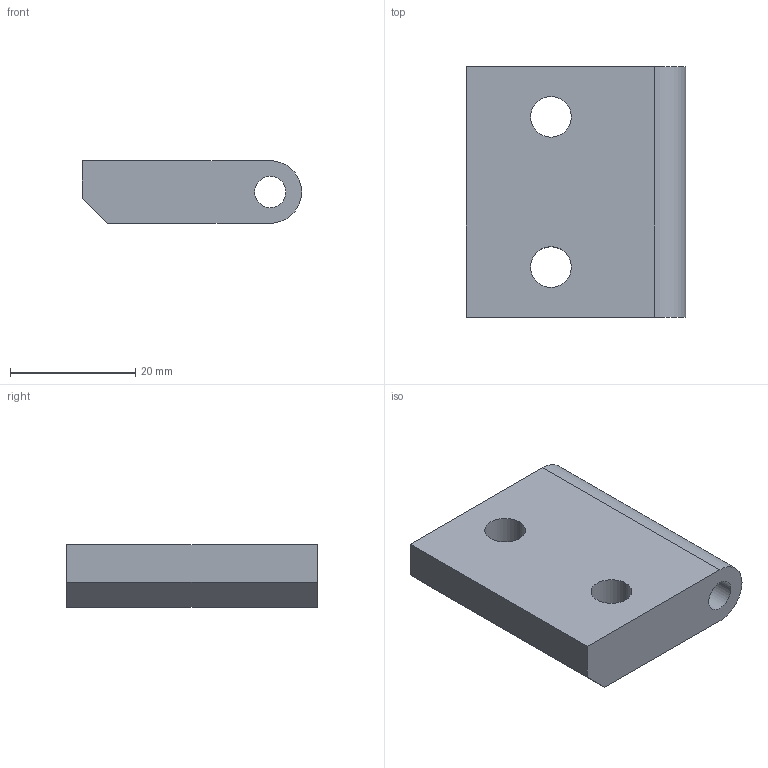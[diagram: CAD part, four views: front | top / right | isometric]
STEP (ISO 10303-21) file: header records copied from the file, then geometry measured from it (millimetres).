
FILE_DESCRIPTION((''),'2;1');
FILE_NAME('CEP30_1','2002-12-27T',('Lipro doo'),('Lipro d.o.o.'),'PRO/ENGINEER BY PARAMETRIC TECHNOLOGY CORPORATION, 2001150','PRO/ENGINEER BY PARAMETRIC TECHNOLOGY CORPORATION, 2001150','');
FILE_SCHEMA(('CONFIG_CONTROL_DESIGN'));
Length unit declared in the file: millimetre
Products named in the file (1): CEP30_1
Bounding box: 35 x 40 x 10 mm (x, y, z)
Volume: 11561.4 mm3; surface area: 4813.5 mm2
Topology: 1 solids, 1 shells, 17 faces, 41 edges, 26 vertices
Faces by surface type: cylinder 7, plane 6, cone 4
Entity records: 551 total; most frequent: DIRECTION 93, CARTESIAN_POINT 84, ORIENTED_EDGE 82, EDGE_CURVE 41, AXIS2_PLACEMENT_3D 35, VERTEX_POINT 26, VECTOR 23, LINE 23
